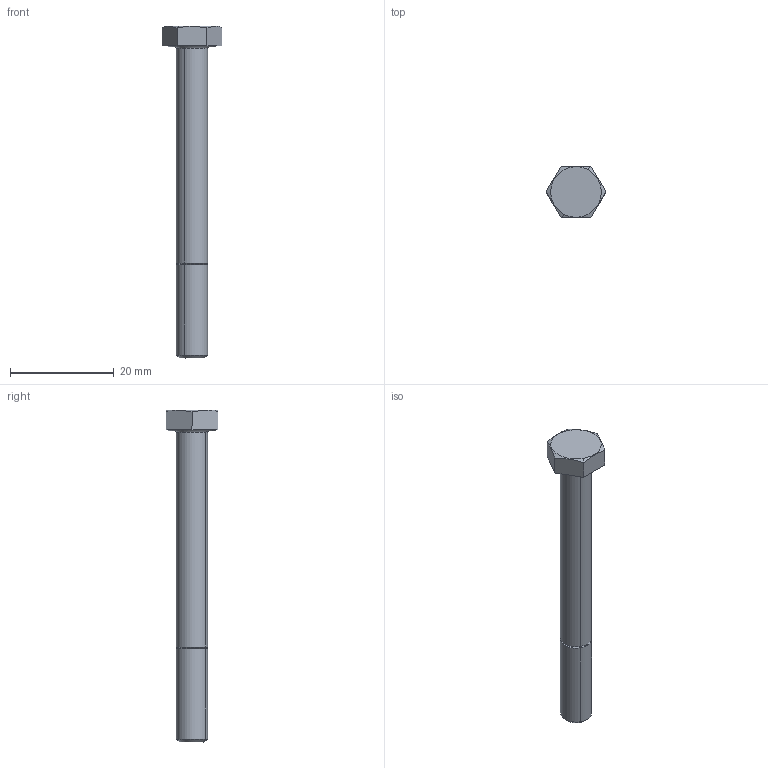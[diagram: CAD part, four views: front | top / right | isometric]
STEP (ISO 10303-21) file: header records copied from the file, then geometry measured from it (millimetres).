
FILE_DESCRIPTION(('3DEXPERIENCE STEP','CAx-IF Rec.Pracs.--- Model Styling and Organization---1.5--- 2016-08-15','CAx-IF Rec.Pracs.---Supplemental Geometry---1.0---2011-11-01','CAx-IF Rec.Pracs.--- Composite Materials ---3.4---2017-06-13','CAx-IF Rec.Pracs.---Tessellated 3D Geometry---1.0---2015-12-17'),'2;1');
FILE_NAME('\\?\D:\School\CarTech\CTU.25\Tutorials\Model\OEM\Hex_Bolt_M6x60.stp','2024-09-26T02:37:49+00:00',('none'),('none'),'3DEXPERIENCE Platform3DEXPERIENCE R2024x HotFix 4.24','3DEXPERIENCE Platform STEP AP242 v3','none');
FILE_SCHEMA(('AP242_MANAGED_MODEL_BASED_3D_ENGINEERING_MIM_LF {1 0 10303 442 1 1 4}'));
Length unit declared in the file: millimetre
Products named in the file (1): Bolt_ISO_4014_M6x60
Bounding box: 11.55 x 10 x 64 mm (x, y, z)
Volume: 2034.7 mm3; surface area: 1440.8 mm2
Topology: 1 solids, 1 shells, 25 faces, 54 edges, 34 vertices
Faces by surface type: plane 11, cone 6, cylinder 4, torus 4
Entity records: 796 total; most frequent: CARTESIAN_POINT 277, ORIENTED_EDGE 108, DIRECTION 81, EDGE_CURVE 54, AXIS2_PLACEMENT_3D 41, VERTEX_POINT 34, EDGE_LOOP 28, ADVANCED_FACE 25
